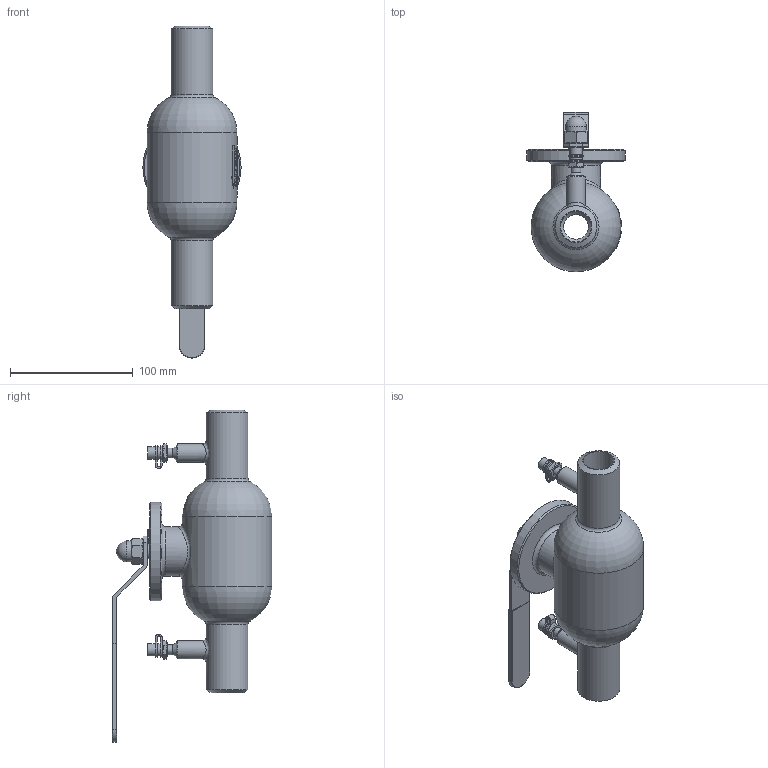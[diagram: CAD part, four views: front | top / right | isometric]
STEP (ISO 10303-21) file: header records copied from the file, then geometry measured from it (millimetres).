
FILE_DESCRIPTION(('STEP AP214'), '1');
FILE_NAME('BVR3232P-SP-W-H Êðàí øàðîâîé ðåãóëèðóþùèé DN.ru Äó25 Py40', '', ('UNSPECIFIED'), ('UNSPECIFIED'), 'C3D Converter', 'C3D Toolkit', '');
FILE_SCHEMA(('AUTOMOTIVE_DESIGN { 1 0 10303 214 3 1 1}'));
Length unit declared in the file: millimetre
Products named in the file (1): BVR3232P-SP-W-H
Bounding box: 80 x 130 x 270 mm (x, y, z)
Volume: 518812.7 mm3; surface area: 84043.7 mm2
Topology: 1 solids, 1 shells, 846 faces, 2183 edges, 1447 vertices
Faces by surface type: plane 421, bspline 184, extrusion 127, cylinder 86, cone 18, torus 9, sphere 1
Full cylindrical faces by diameter (mm): 8 x10, 10 x4, 12 x1, 15 x2, 17 x1, 20 x1, 25 x2, 34 x2, 40 x1, 73 x1, 80 x1
Entity records: 83833 total; most frequent: CARTESIAN_POINT 63823, ORIENTED_EDGE 4256, DIRECTION 2791, EDGE_CURVE 2128, VERTEX_POINT 1445, VECTOR 1213, LINE 1086, EDGE_LOOP 1013
